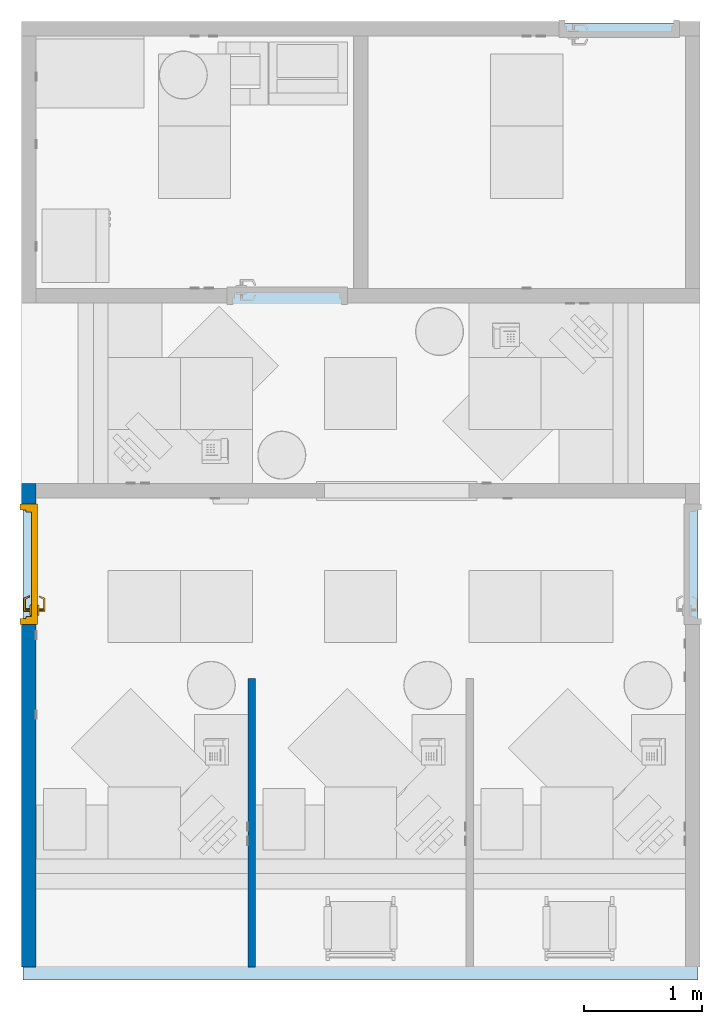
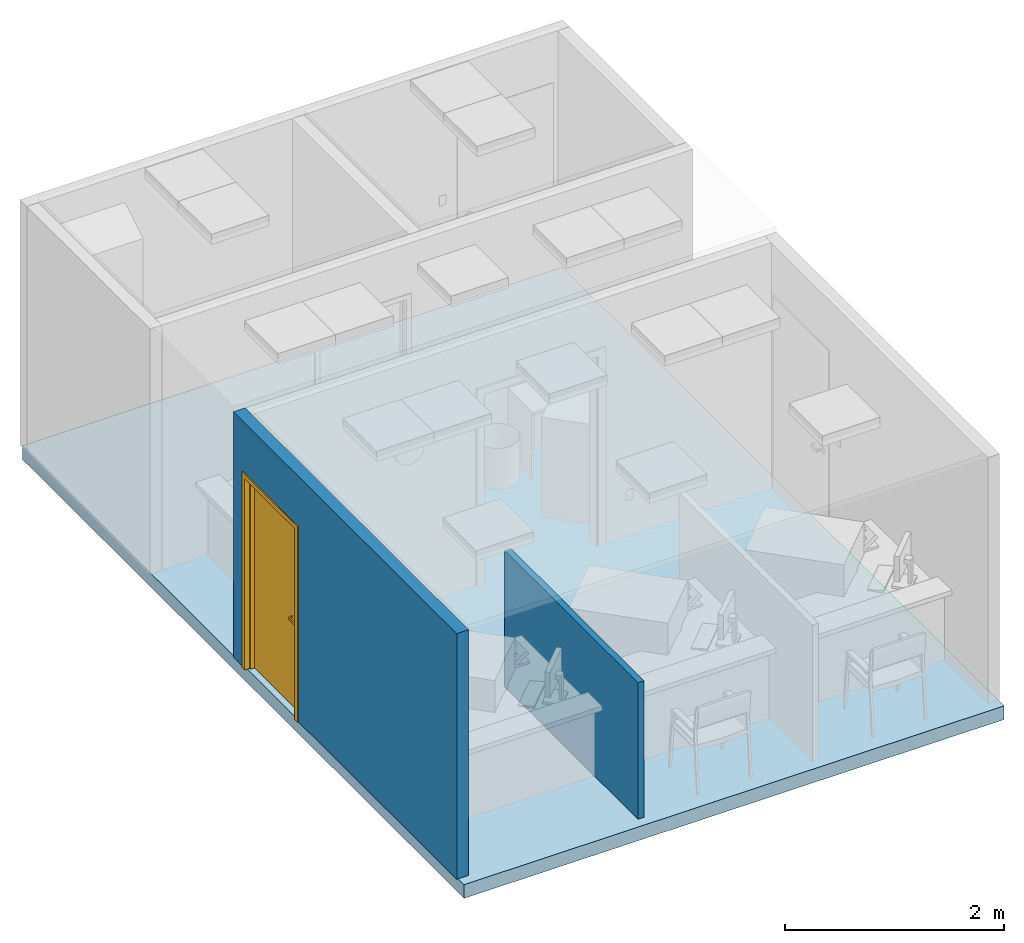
# One storey, part 1 of 20: 2 walls, 1 door, 1 slab, 1 opening.
"""IFC2X3 building model written with IfcOpenShell, lengths in feet."""

from ifc_helpers import new_model, entity, si_unit, converted_unit, derived_unit, direction, frame, frame_2d, origin, origin_2d_with_axis, place, context, subcontext, project, spatial, rectangle, extrude, faceted_brep, source, transform, mapped, material, layer, layer_set, layer_usage, type_object, type_shapes, element, fill, save


model = new_model("IFC2X3")

# Units and contexts
model_context = context("Model", 3, precision=0.0001, world=origin(), true_north=direction((6.12303176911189e-17, 1.0)))
body_context = subcontext(model_context, "Body", "Model", "MODEL_VIEW")
ifc_project = project(units=[converted_unit("LENGTHUNIT", "FOOT", entity("IfcRatioMeasure", 0.3048), si_unit("LENGTHUNIT", "METRE"), dimensions=[1, 0, 0, 0, 0, 0, 0]), converted_unit("AREAUNIT", "SQUARE FOOT", entity("IfcRatioMeasure", 0.09290304), si_unit("AREAUNIT", "SQUARE_METRE"), dimensions=[2, 0, 0, 0, 0, 0, 0]), converted_unit("VOLUMEUNIT", "CUBIC FOOT", entity("IfcRatioMeasure", 0.028316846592), si_unit("VOLUMEUNIT", "CUBIC_METRE"), dimensions=[3, 0, 0, 0, 0, 0, 0]), converted_unit("PLANEANGLEUNIT", "DEGREE", entity("IfcRatioMeasure", 0.0174532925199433), si_unit("PLANEANGLEUNIT", "RADIAN"), dimensions=[0, 0, 0, 0, 0, 0, 0]), si_unit("MASSUNIT", "GRAM", prefix="KILO"), derived_unit("MASSDENSITYUNIT", [(si_unit("MASSUNIT", "GRAM", prefix="KILO"), 1), (si_unit("LENGTHUNIT", "METRE"), -3)]), si_unit("TIMEUNIT", "SECOND"), si_unit("FREQUENCYUNIT", "HERTZ"), si_unit("THERMODYNAMICTEMPERATUREUNIT", "DEGREE_CELSIUS"), derived_unit("THERMALTRANSMITTANCEUNIT", [(si_unit("MASSUNIT", "GRAM", prefix="KILO"), 1), (si_unit("THERMODYNAMICTEMPERATUREUNIT", "KELVIN"), -1), (si_unit("TIMEUNIT", "SECOND"), -3)]), derived_unit("VOLUMETRICFLOWRATEUNIT", [(si_unit("LENGTHUNIT", "METRE"), 3), (si_unit("TIMEUNIT", "SECOND"), -1)]), si_unit("ELECTRICCURRENTUNIT", "AMPERE"), si_unit("ELECTRICVOLTAGEUNIT", "VOLT"), si_unit("POWERUNIT", "WATT"), si_unit("FORCEUNIT", "NEWTON"), si_unit("ILLUMINANCEUNIT", "LUX"), si_unit("LUMINOUSFLUXUNIT", "LUMEN"), si_unit("LUMINOUSINTENSITYUNIT", "CANDELA"), derived_unit("USERDEFINED", [(si_unit("MASSUNIT", "GRAM", prefix="KILO"), -1), (si_unit("LENGTHUNIT", "METRE"), -2), (si_unit("TIMEUNIT", "SECOND"), 3), (si_unit("LUMINOUSFLUXUNIT", "LUMEN"), 1)]), derived_unit("LINEARVELOCITYUNIT", [(si_unit("LENGTHUNIT", "METRE"), 1), (si_unit("TIMEUNIT", "SECOND"), -1)]), si_unit("PRESSUREUNIT", "PASCAL"), derived_unit("USERDEFINED", [(si_unit("LENGTHUNIT", "METRE"), -2), (si_unit("MASSUNIT", "GRAM", prefix="KILO"), 1), (si_unit("TIMEUNIT", "SECOND"), -2)])], contexts=[model_context])

# Site, building, storey
site_placement = place(None, origin())
site = spatial("IfcSite", under=ifc_project, at=site_placement, Name="Default", CompositionType="ELEMENT")
building_placement = place(site_placement, origin())
building = spatial("IfcBuilding", under=site, at=building_placement, Name="OUTPATIENT / PACT CLINIC (Ch. 265)", CompositionType="ELEMENT")
storey_placement = place(building_placement, origin())
storey = spatial("IfcBuildingStorey", under=building, at=storey_placement, Name="DATUM", CompositionType="ELEMENT", Elevation=0.0)

# Slab
ifc_material = material(Name="<Unnamed>")
ifc_layer_1 = layer(ifc_material, 0.5)
ifc_layer_set_1 = layer_set([ifc_layer_1], Name="Floor:Generic - 6\"")
ifc_layer_usage_1 = layer_usage(ifc_layer_set_1, "AXIS3", "POSITIVE", 0.0)
slab_placement = place(storey_placement, origin())
element("IfcSlab", 1, at=slab_placement, inside=storey, material=ifc_layer_usage_1, Name="Floor:Generic - 6\"", ObjectType="Floor:Generic - 6\"", PredefinedType="FLOOR", context=body_context, shape_type="SweptSolid", body=[
    extrude(rectangle(XDim=26.5208333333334, YDim=18.7083333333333, at=origin_2d_with_axis()), frame((65.2641134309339, -855.018589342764, 0.0), z_axis=(0.0, 0.0, -1.0), x_axis=(0.0, 1.0, 0.0)), (0.0, 0.0, 1.0), 0.5),
])

# Wall, opening, door
ifc_layer_2 = layer(ifc_material, 0.40625)
ifc_layer_set_2 = layer_set([ifc_layer_2], Name="Basic Wall:Interior - 4 7/8\"")
ifc_layer_usage_2 = layer_usage(ifc_layer_set_2, "AXIS2", "NEGATIVE", 0.203125)
wall_type_1 = type_object("IfcWallType", Name="Basic Wall:Interior - 4 7/8\"", PredefinedType="STANDARD", material=ifc_layer_set_2)
wall_1_placement = place(storey_placement, frame((56.0609884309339, -867.924839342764, 0.0), z_axis=(0.0, 0.0, 1.0), x_axis=(0.0, 1.0, 0.0)))
wall_1 = element("IfcWallStandardCase", 2, at=wall_1_placement, inside=storey, type_object=wall_type_1, material=ifc_layer_usage_2, Name="Basic Wall:Interior - 4 7/8\"", ObjectType="Basic Wall:Interior - 4 7/8\"", context=body_context, shape_type="SweptSolid", body=[
    extrude(rectangle(XDim=13.40625, YDim=0.40625, at=frame_2d((6.703125, -2.05391259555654e-15), x_axis=(-1.0, 0.0))), origin(), (0.0, 0.0, 1.0), 9.0),
])
opening_placement = place(wall_1_placement, frame((12.8333333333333, 0.203124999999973, 0.0)))
opening = element("IfcOpeningElement", 3, at=opening_placement, cuts=wall_1, Name="Single - Flush:36\" x 84\":1", ObjectType="Opening", context=body_context, shape_type="SweptSolid", body=[
    extrude(rectangle(XDim=3.33333333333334, YDim=7.16666666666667, at=frame_2d((3.58333333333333, 1.66666666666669), x_axis=(0.0, -1.0))), frame((0.0, 0.0, 0.0), z_axis=(0.0, -1.0, 0.0), x_axis=(0.0, 0.0, 1.0)), (0.0, 0.0, 1.0), 0.40625),
])
door_style = type_object("IfcDoorStyle", Name="36\" x 84\"", ConstructionType="NOTDEFINED", OperationType="NOTDEFINED", ParameterTakesPrecedence=False, Sizeable=False)
shared_shape = source(origin(), body_context, "Body", "Brep", [
    faceted_brep([(2.62432039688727, 0.123080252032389, 3.36458333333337), (2.63071126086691, 0.109375, 3.36458333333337), (2.63071126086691, 0.109375, 3.30208333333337), (2.62432039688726, 0.12308025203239, 3.30208333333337), (2.57149311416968, 0.23636872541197, 3.31250000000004), (2.57149311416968, 0.23636872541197, 3.3541666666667), (2.53373028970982, 0.218759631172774, 3.31250000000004), (2.5865575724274, 0.105471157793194, 3.30208333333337), (2.6041666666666, 0.0677083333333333, 3.30208333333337), (2.6041666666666, 0.067708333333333, 3.36458333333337), (2.58655757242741, 0.105471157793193, 3.36458333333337), (2.53373028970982, 0.218759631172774, 3.3541666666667), (2.6041666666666, 0.109375, 3.30208333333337), (2.6041666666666, 0.109375, 3.36458333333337), (2.93619600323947, 0.0677083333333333, 3.29168707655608), (2.94639661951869, 0.0677083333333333, 3.29262754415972), (2.95605949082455, 0.0677083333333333, 3.29602842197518), (2.9646005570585, 0.0677083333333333, 3.3016841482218), (2.97150356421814, 0.0677083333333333, 3.30925286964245), (2.97635126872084, 0.0677083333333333, 3.31827710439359), (2.97885065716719, 0.0677083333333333, 3.32821139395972), (2.97885065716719, 0.0677083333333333, 3.33845527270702), (2.97635126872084, 0.0677083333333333, 3.34838956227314), (2.97150356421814, 0.0677083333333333, 3.35741379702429), (2.9646005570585, 0.0677083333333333, 3.36498251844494), (2.95605949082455, 0.0677083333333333, 3.37063824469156), (2.94639661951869, 0.0677083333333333, 3.37403912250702), (2.93619600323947, 0.0677083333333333, 3.37497959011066), (2.92566985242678, 0.109375, 3.29338137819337), (2.93619600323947, 0.109375, 3.29168707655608), (2.93619600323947, 0.109375, 3.37497959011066), (2.92566985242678, 0.109375, 3.37328528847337), (2.91591827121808, 0.109375, 3.36897516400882), (2.90757973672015, 0.109375, 3.36233141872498), (2.90120020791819, 0.109375, 3.35378904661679), (2.8971973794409, 0.109375, 3.34390735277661), (2.89583333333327, 0.109375, 3.33333333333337), (2.8971973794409, 0.109375, 3.32275931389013), (2.90120020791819, 0.109375, 3.31287762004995), (2.90757973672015, 0.109375, 3.30433524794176), (2.91591827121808, 0.109375, 3.29769150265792), (2.94568224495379, 0.109375, 3.29247795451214), (2.95473886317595, 0.109375, 3.2954000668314), (2.96289592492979, 0.109375, 3.30030065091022), (2.96972778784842, 0.109375, 3.30692347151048), (2.97487870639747, 0.109375, 3.31492291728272), (2.97808054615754, 0.109375, 3.32388185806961), (2.9791666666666, 0.109375, 3.33333333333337), (2.97808054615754, 0.109375, 3.34278480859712), (2.97487870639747, 0.109375, 3.35174374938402), (2.96972778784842, 0.109375, 3.35974319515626), (2.96289592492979, 0.109375, 3.36636601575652), (2.95473886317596, 0.109375, 3.37126659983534), (2.94568224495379, 0.109375, 3.3741887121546), (2.97774690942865, 0.234375, 3.34411746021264), (2.9791666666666, 0.234375, 3.33333333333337), (2.97358439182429, 0.234375, 3.3541666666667), (2.96696278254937, 0.234375, 3.36279611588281), (2.95833333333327, 0.234375, 3.36941772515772), (2.94828412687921, 0.234375, 3.37358024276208), (2.93749999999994, 0.234375, 3.37500000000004), (2.92671587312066, 0.234375, 3.37358024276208), (2.9166666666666, 0.234375, 3.36941772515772), (2.9080372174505, 0.234375, 3.36279611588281), (2.90141560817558, 0.234375, 3.3541666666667), (2.89725309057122, 0.234375, 3.34411746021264), (2.89583333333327, 0.234375, 3.33333333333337), (2.89725309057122, 0.234375, 3.3225492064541), (2.90141560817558, 0.234375, 3.31250000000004), (2.9080372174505, 0.234375, 3.30387055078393), (2.9166666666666, 0.234375, 3.29724894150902), (2.92671587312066, 0.234375, 3.29308642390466), (2.93749999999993, 0.234375, 3.2916666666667), (2.94828412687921, 0.234375, 3.29308642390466), (2.95833333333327, 0.234375, 3.29724894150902), (2.96696278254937, 0.234375, 3.30387055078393), (2.97358439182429, 0.234375, 3.31250000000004), (2.97774690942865, 0.234375, 3.3225492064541), (2.86458333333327, 0.234375, 3.4596287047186), (2.8343802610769, 0.234375, 3.43645307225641), (2.89975555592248, 0.234375, 3.47419751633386), (2.93749999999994, 0.234375, 3.4791666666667), (2.97524444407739, 0.234375, 3.47419751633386), (3.0104166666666, 0.234375, 3.4596287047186), (3.04061973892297, 0.234375, 3.43645307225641), (3.06379537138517, 0.234375, 3.40625000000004), (3.07836418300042, 0.234375, 3.37107777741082), (3.08333333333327, 0.234375, 3.33333333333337), (3.07836418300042, 0.234375, 3.29558888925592), (3.06379537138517, 0.234375, 3.2604166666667), (3.04061973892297, 0.234375, 3.23021359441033), (3.0104166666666, 0.234375, 3.20703796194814), (2.97524444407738, 0.234375, 3.19246915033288), (2.93749999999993, 0.234375, 3.18750000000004), (2.89975555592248, 0.234375, 3.19246915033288), (2.86458333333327, 0.234375, 3.20703796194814), (2.8343802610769, 0.234375, 3.23021359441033), (2.8112046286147, 0.234375, 3.2604166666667), (2.79663581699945, 0.234375, 3.29558888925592), (2.7916666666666, 0.234375, 3.33333333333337), (2.79663581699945, 0.234375, 3.37107777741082), (2.8112046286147, 0.234375, 3.40625000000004), (2.8343802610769, 0.276041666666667, 3.23021359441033), (2.8112046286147, 0.276041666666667, 3.2604166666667), (2.79663581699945, 0.276041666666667, 3.29558888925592), (2.7916666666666, 0.276041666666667, 3.33333333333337), (2.79663581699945, 0.276041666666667, 3.37107777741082), (2.8112046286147, 0.276041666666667, 3.40625000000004), (2.8343802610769, 0.276041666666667, 3.43645307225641), (2.86458333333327, 0.276041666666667, 3.4596287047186), (2.89975555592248, 0.276041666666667, 3.47419751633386), (2.93749999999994, 0.276041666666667, 3.4791666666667), (2.97524444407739, 0.276041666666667, 3.47419751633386), (3.0104166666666, 0.276041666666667, 3.4596287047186), (3.04061973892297, 0.276041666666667, 3.43645307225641), (3.06379537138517, 0.276041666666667, 3.40625000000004), (3.07836418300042, 0.276041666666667, 3.37107777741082), (3.08333333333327, 0.276041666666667, 3.33333333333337), (3.07836418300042, 0.276041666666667, 3.29558888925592), (3.06379537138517, 0.276041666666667, 3.2604166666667), (3.04061973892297, 0.276041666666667, 3.23021359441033), (3.0104166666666, 0.276041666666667, 3.20703796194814), (2.97524444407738, 0.276041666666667, 3.19246915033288), (2.93749999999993, 0.276041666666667, 3.18750000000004), (2.89975555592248, 0.276041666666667, 3.19246915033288), (2.86458333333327, 0.276041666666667, 3.20703796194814)], [[[0, 1, 2, 3, 4, 5]], [[6, 7, 8, 9, 10, 11]], [[3, 2, 12, 8, 7]], [[4, 3, 7, 6]], [[5, 4, 6, 11]], [[0, 5, 11, 10]], [[1, 0, 10, 9, 13]], [[9, 8, 14, 15, 16, 17, 18, 19, 20, 21, 22, 23, 24, 25, 26, 27]], [[28, 29, 12, 2, 1, 13, 30, 31, 32, 33, 34, 35, 36, 37, 38, 39, 40]], [[14, 8, 12, 29]], [[41, 14, 29]], [[42, 15, 41]], [[17, 43, 44]], [[44, 45, 18]], [[42, 43, 16]], [[46, 19, 45]], [[42, 16, 15]], [[15, 14, 41]], [[19, 18, 45]], [[17, 44, 18]], [[17, 16, 43]], [[20, 19, 46]], [[46, 47, 20]], [[48, 21, 47]], [[49, 22, 48]], [[24, 50, 51]], [[51, 52, 25]], [[49, 50, 23]], [[53, 26, 52]], [[24, 23, 50]], [[23, 22, 49]], [[22, 21, 48]], [[27, 26, 53]], [[25, 52, 26]], [[25, 24, 51]], [[27, 53, 30]], [[47, 21, 20]], [[9, 27, 30, 13]], [[54, 48, 55]], [[56, 49, 54]], [[51, 57, 58]], [[56, 57, 50]], [[52, 58, 59]], [[54, 49, 48]], [[48, 47, 55]], [[52, 51, 58]], [[50, 57, 51]], [[50, 49, 56]], [[53, 52, 59]], [[59, 60, 53]], [[61, 30, 60]], [[62, 31, 61]], [[33, 63, 64]], [[64, 65, 34]], [[62, 63, 32]], [[66, 35, 65]], [[62, 32, 31]], [[31, 30, 61]], [[35, 34, 65]], [[33, 64, 34]], [[33, 32, 63]], [[36, 35, 66]], [[60, 30, 53]], [[67, 37, 66]], [[68, 38, 67]], [[40, 69, 70]], [[68, 69, 39]], [[28, 70, 71]], [[67, 38, 37]], [[37, 36, 66]], [[28, 40, 70]], [[39, 69, 40]], [[39, 38, 68]], [[29, 28, 71]], [[71, 72, 29]], [[73, 41, 72]], [[74, 42, 73]], [[44, 75, 76]], [[76, 77, 45]], [[74, 75, 43]], [[55, 46, 77]], [[74, 43, 42]], [[42, 41, 73]], [[46, 45, 77]], [[44, 76, 45]], [[44, 43, 75]], [[47, 46, 55]], [[72, 41, 29]], [[62, 61, 78]], [[79, 62, 78]], [[62, 79, 63]], [[61, 80, 78]], [[80, 61, 60]], [[80, 60, 81]], [[59, 81, 60]], [[81, 59, 82]], [[59, 58, 82]], [[83, 82, 58]], [[57, 83, 58]], [[83, 57, 84]], [[56, 84, 57]], [[85, 84, 56]], [[54, 85, 56]], [[86, 85, 54]], [[86, 54, 55]], [[86, 55, 87]], [[87, 55, 77]], [[87, 77, 88]], [[88, 77, 76]], [[88, 76, 89]], [[90, 89, 76]], [[90, 76, 75]], [[75, 91, 90]], [[75, 74, 91]], [[92, 91, 74]], [[73, 92, 74]], [[73, 93, 92]], [[93, 73, 72]], [[72, 94, 93]], [[71, 94, 72]], [[94, 71, 95]], [[70, 95, 71]], [[96, 95, 70]], [[96, 70, 69]], [[96, 69, 97]], [[97, 69, 68]], [[97, 68, 98]], [[67, 98, 68]], [[99, 98, 67]], [[67, 66, 99]], [[66, 100, 99]], [[100, 66, 65]], [[100, 65, 101]], [[65, 64, 101]], [[63, 101, 64]], [[79, 101, 63]], [[102, 103, 104, 105, 106, 107, 108, 109, 110, 111, 112, 113, 114, 115, 116, 117, 118, 119, 120, 121, 122, 123, 124, 125]], [[116, 86, 87, 117]], [[115, 85, 86, 116]], [[83, 84, 114, 113]], [[115, 114, 84, 85]], [[82, 83, 113, 112]], [[81, 82, 112, 111]], [[110, 80, 81, 111]], [[109, 78, 80, 110]], [[101, 79, 108, 107]], [[109, 108, 79, 78]], [[100, 101, 107, 106]], [[99, 100, 106, 105]], [[104, 98, 99, 105]], [[103, 97, 98, 104]], [[95, 96, 102, 125]], [[103, 102, 96, 97]], [[94, 95, 125, 124]], [[93, 94, 124, 123]], [[122, 92, 93, 123]], [[121, 91, 92, 122]], [[89, 90, 120, 119]], [[121, 120, 90, 91]], [[88, 89, 119, 118]], [[87, 88, 118, 117]]]),
    faceted_brep([(2.62432039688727, 0.595669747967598, 3.30208333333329), (2.63071126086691, 0.609374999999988, 3.30208333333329), (2.63071126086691, 0.609374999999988, 3.36458333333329), (2.62432039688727, 0.595669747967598, 3.36458333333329), (2.57149311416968, 0.482381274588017, 3.35416666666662), (2.57149311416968, 0.482381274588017, 3.31249999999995), (2.53373028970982, 0.499990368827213, 3.35416666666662), (2.58655757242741, 0.613278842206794, 3.36458333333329), (2.6041666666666, 0.651041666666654, 3.36458333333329), (2.6041666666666, 0.651041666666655, 3.30208333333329), (2.58655757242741, 0.613278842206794, 3.30208333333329), (2.53373028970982, 0.499990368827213, 3.31249999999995), (2.6041666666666, 0.609374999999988, 3.36458333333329), (2.6041666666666, 0.609374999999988, 3.30208333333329), (2.93619600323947, 0.651041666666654, 3.37497959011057), (2.94639661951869, 0.651041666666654, 3.37403912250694), (2.95605949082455, 0.651041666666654, 3.37063824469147), (2.9646005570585, 0.651041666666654, 3.36498251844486), (2.97150356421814, 0.651041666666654, 3.35741379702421), (2.97635126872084, 0.651041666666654, 3.34838956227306), (2.97885065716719, 0.651041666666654, 3.33845527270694), (2.97885065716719, 0.651041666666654, 3.32821139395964), (2.97635126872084, 0.651041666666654, 3.31827710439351), (2.97150356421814, 0.651041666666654, 3.30925286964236), (2.9646005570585, 0.651041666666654, 3.30168414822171), (2.95605949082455, 0.651041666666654, 3.2960284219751), (2.94639661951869, 0.651041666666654, 3.29262754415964), (2.93619600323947, 0.651041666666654, 3.291687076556), (2.92566985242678, 0.609374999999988, 3.37328528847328), (2.93619600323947, 0.609374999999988, 3.37497959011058), (2.93619600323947, 0.609374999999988, 3.291687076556), (2.92566985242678, 0.609374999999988, 3.29338137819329), (2.91591827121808, 0.609374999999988, 3.29769150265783), (2.90757973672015, 0.609374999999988, 3.30433524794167), (2.9012002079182, 0.609374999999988, 3.31287762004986), (2.89719737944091, 0.609374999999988, 3.32275931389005), (2.89583333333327, 0.609374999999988, 3.33333333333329), (2.89719737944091, 0.609374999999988, 3.34390735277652), (2.9012002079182, 0.609374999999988, 3.35378904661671), (2.90757973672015, 0.609374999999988, 3.3623314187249), (2.91591827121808, 0.609374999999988, 3.36897516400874), (2.94568224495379, 0.609374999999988, 3.37418871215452), (2.95473886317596, 0.609374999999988, 3.37126659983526), (2.96289592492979, 0.609374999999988, 3.36636601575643), (2.96972778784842, 0.609374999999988, 3.35974319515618), (2.97487870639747, 0.609374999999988, 3.35174374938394), (2.97808054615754, 0.609374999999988, 3.34278480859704), (2.9791666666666, 0.609374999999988, 3.33333333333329), (2.97808054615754, 0.609374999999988, 3.32388185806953), (2.97487870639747, 0.609374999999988, 3.31492291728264), (2.96972778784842, 0.609374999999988, 3.30692347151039), (2.96289592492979, 0.609374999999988, 3.30030065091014), (2.95473886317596, 0.609374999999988, 3.29540006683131), (2.94568224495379, 0.609374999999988, 3.29247795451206), (2.97774690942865, 0.484374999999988, 3.32254920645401), (2.9791666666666, 0.484374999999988, 3.33333333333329), (2.97358439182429, 0.484374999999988, 3.31249999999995), (2.96696278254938, 0.484374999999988, 3.30387055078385), (2.95833333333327, 0.484374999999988, 3.29724894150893), (2.94828412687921, 0.484374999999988, 3.29308642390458), (2.93749999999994, 0.484374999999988, 3.29166666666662), (2.92671587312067, 0.484374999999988, 3.29308642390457), (2.9166666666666, 0.484374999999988, 3.29724894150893), (2.9080372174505, 0.484374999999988, 3.30387055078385), (2.90141560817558, 0.484374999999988, 3.31249999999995), (2.89725309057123, 0.484374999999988, 3.32254920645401), (2.89583333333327, 0.484374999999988, 3.33333333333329), (2.89725309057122, 0.484374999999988, 3.34411746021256), (2.90141560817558, 0.484374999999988, 3.35416666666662), (2.9080372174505, 0.484374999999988, 3.36279611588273), (2.9166666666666, 0.484374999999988, 3.36941772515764), (2.92671587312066, 0.484374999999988, 3.373580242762), (2.93749999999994, 0.484374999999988, 3.37499999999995), (2.94828412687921, 0.484374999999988, 3.373580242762), (2.95833333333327, 0.484374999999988, 3.36941772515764), (2.96696278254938, 0.484374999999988, 3.36279611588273), (2.97358439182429, 0.484374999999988, 3.35416666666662), (2.97774690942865, 0.484374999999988, 3.34411746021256), (2.86458333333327, 0.484374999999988, 3.20703796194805), (2.8343802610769, 0.484374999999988, 3.23021359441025), (2.89975555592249, 0.484374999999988, 3.1924691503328), (2.93749999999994, 0.484374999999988, 3.18749999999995), (2.97524444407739, 0.484374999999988, 3.1924691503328), (3.0104166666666, 0.484374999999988, 3.20703796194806), (3.04061973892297, 0.484374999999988, 3.23021359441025), (3.06379537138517, 0.484374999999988, 3.26041666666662), (3.07836418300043, 0.484374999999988, 3.29558888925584), (3.08333333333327, 0.484374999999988, 3.33333333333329), (3.07836418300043, 0.484374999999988, 3.37107777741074), (3.06379537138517, 0.484374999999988, 3.40624999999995), (3.04061973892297, 0.484374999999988, 3.43645307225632), (3.0104166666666, 0.484374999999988, 3.45962870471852), (2.97524444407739, 0.484374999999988, 3.47419751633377), (2.93749999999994, 0.484374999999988, 3.47916666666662), (2.89975555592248, 0.484374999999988, 3.47419751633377), (2.86458333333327, 0.484374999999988, 3.45962870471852), (2.8343802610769, 0.484374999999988, 3.43645307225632), (2.81120462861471, 0.484374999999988, 3.40624999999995), (2.79663581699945, 0.484374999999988, 3.37107777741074), (2.7916666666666, 0.484374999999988, 3.33333333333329), (2.79663581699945, 0.484374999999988, 3.29558888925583), (2.81120462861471, 0.484374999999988, 3.26041666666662), (2.8343802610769, 0.442708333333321, 3.43645307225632), (2.81120462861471, 0.442708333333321, 3.40624999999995), (2.79663581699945, 0.442708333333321, 3.37107777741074), (2.7916666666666, 0.442708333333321, 3.33333333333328), (2.79663581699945, 0.442708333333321, 3.29558888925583), (2.81120462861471, 0.442708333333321, 3.26041666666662), (2.8343802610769, 0.442708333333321, 3.23021359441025), (2.86458333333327, 0.442708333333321, 3.20703796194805), (2.89975555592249, 0.442708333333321, 3.1924691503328), (2.93749999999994, 0.442708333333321, 3.18749999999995), (2.97524444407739, 0.442708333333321, 3.1924691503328), (3.0104166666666, 0.442708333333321, 3.20703796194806), (3.04061973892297, 0.442708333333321, 3.23021359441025), (3.06379537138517, 0.442708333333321, 3.26041666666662), (3.07836418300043, 0.442708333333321, 3.29558888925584), (3.08333333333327, 0.442708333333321, 3.33333333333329), (3.07836418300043, 0.442708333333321, 3.37107777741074), (3.06379537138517, 0.442708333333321, 3.40624999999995), (3.04061973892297, 0.442708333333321, 3.43645307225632), (3.0104166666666, 0.442708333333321, 3.45962870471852), (2.97524444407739, 0.442708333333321, 3.47419751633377), (2.93749999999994, 0.442708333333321, 3.47916666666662), (2.89975555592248, 0.442708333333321, 3.47419751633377), (2.86458333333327, 0.442708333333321, 3.45962870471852)], [[[0, 1, 2, 3, 4, 5]], [[6, 7, 8, 9, 10, 11]], [[3, 2, 12, 8, 7]], [[4, 3, 7, 6]], [[5, 4, 6, 11]], [[0, 5, 11, 10]], [[1, 0, 10, 9, 13]], [[9, 8, 14, 15, 16, 17, 18, 19, 20, 21, 22, 23, 24, 25, 26, 27]], [[28, 29, 12, 2, 1, 13, 30, 31, 32, 33, 34, 35, 36, 37, 38, 39, 40]], [[14, 8, 12, 29]], [[41, 14, 29]], [[42, 15, 41]], [[17, 43, 44]], [[44, 45, 18]], [[42, 43, 16]], [[46, 19, 45]], [[42, 16, 15]], [[15, 14, 41]], [[19, 18, 45]], [[17, 44, 18]], [[17, 16, 43]], [[20, 19, 46]], [[46, 47, 20]], [[48, 21, 47]], [[49, 22, 48]], [[24, 50, 51]], [[51, 52, 25]], [[49, 50, 23]], [[53, 26, 52]], [[24, 23, 50]], [[23, 22, 49]], [[22, 21, 48]], [[27, 26, 53]], [[25, 52, 26]], [[25, 24, 51]], [[27, 53, 30]], [[47, 21, 20]], [[9, 27, 30, 13]], [[54, 48, 55]], [[56, 49, 54]], [[51, 57, 58]], [[56, 57, 50]], [[52, 58, 59]], [[54, 49, 48]], [[48, 47, 55]], [[52, 51, 58]], [[50, 57, 51]], [[50, 49, 56]], [[53, 52, 59]], [[59, 60, 53]], [[61, 30, 60]], [[62, 31, 61]], [[33, 63, 64]], [[64, 65, 34]], [[62, 63, 32]], [[66, 35, 65]], [[62, 32, 31]], [[31, 30, 61]], [[35, 34, 65]], [[33, 64, 34]], [[33, 32, 63]], [[36, 35, 66]], [[60, 30, 53]], [[67, 37, 66]], [[68, 38, 67]], [[40, 69, 70]], [[68, 69, 39]], [[28, 70, 71]], [[67, 38, 37]], [[37, 36, 66]], [[28, 40, 70]], [[39, 69, 40]], [[39, 38, 68]], [[29, 28, 71]], [[71, 72, 29]], [[73, 41, 72]], [[74, 42, 73]], [[44, 75, 76]], [[76, 77, 45]], [[74, 75, 43]], [[55, 46, 77]], [[74, 43, 42]], [[42, 41, 73]], [[46, 45, 77]], [[44, 76, 45]], [[44, 43, 75]], [[47, 46, 55]], [[72, 41, 29]], [[62, 61, 78]], [[79, 62, 78]], [[62, 79, 63]], [[61, 80, 78]], [[80, 61, 60]], [[80, 60, 81]], [[59, 81, 60]], [[81, 59, 82]], [[59, 58, 82]], [[83, 82, 58]], [[57, 83, 58]], [[83, 57, 84]], [[56, 84, 57]], [[85, 84, 56]], [[54, 85, 56]], [[86, 85, 54]], [[86, 54, 55]], [[86, 55, 87]], [[87, 55, 77]], [[87, 77, 88]], [[88, 77, 76]], [[88, 76, 89]], [[90, 89, 76]], [[90, 76, 75]], [[75, 91, 90]], [[75, 74, 91]], [[92, 91, 74]], [[73, 92, 74]], [[73, 93, 92]], [[93, 73, 72]], [[72, 94, 93]], [[71, 94, 72]], [[94, 71, 95]], [[70, 95, 71]], [[96, 95, 70]], [[96, 70, 69]], [[96, 69, 97]], [[97, 69, 68]], [[97, 68, 98]], [[67, 98, 68]], [[99, 98, 67]], [[67, 66, 99]], [[66, 100, 99]], [[100, 66, 65]], [[100, 65, 101]], [[65, 64, 101]], [[63, 101, 64]], [[79, 101, 63]], [[102, 103, 104, 105, 106, 107, 108, 109, 110, 111, 112, 113, 114, 115, 116, 117, 118, 119, 120, 121, 122, 123, 124, 125]], [[116, 86, 87, 117]], [[115, 85, 86, 116]], [[83, 84, 114, 113]], [[115, 114, 84, 85]], [[82, 83, 113, 112]], [[81, 82, 112, 111]], [[110, 80, 81, 111]], [[109, 78, 80, 110]], [[101, 79, 108, 107]], [[109, 108, 79, 78]], [[100, 101, 107, 106]], [[99, 100, 106, 105]], [[104, 98, 99, 105]], [[103, 97, 98, 104]], [[95, 96, 102, 125]], [[103, 102, 96, 97]], [[94, 95, 125, 124]], [[93, 94, 124, 123]], [[122, 92, 93, 123]], [[121, 91, 92, 122]], [[89, 90, 120, 119]], [[121, 120, 90, 91]], [[88, 89, 119, 118]], [[87, 88, 118, 117]]]),
    faceted_brep([(0.166666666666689, 0.442708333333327, 7.0), (3.16666666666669, 0.442708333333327, 7.0), (3.16666666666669, 0.442708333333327, 0.0), (0.166666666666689, 0.442708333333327, 0.0), (0.166666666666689, 0.276041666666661, 7.0), (0.166666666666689, 0.276041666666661, 0.0), (3.16666666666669, 0.276041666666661, 0.0), (3.16666666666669, 0.276041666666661, 7.0)], [[[0, 1, 2, 3]], [[4, 5, 6, 7]], [[1, 0, 4, 7]], [[2, 1, 7, 6]], [[3, 2, 6, 5]], [[0, 3, 5, 4]]]),
    faceted_brep([(0.166666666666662, 0.442708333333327, 0.0), (0.166666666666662, 0.276041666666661, 0.0), (0.218749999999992, 0.276041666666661, 0.0), (0.218749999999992, 0.130208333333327, 0.0), (0.166666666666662, 0.130208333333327, 0.0), (0.166666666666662, -0.0364583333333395, 0.0), (0.0, -0.0364583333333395, 0.0), (0.0, 0.442708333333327, 0.0), (0.166666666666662, 0.442708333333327, 7.0), (0.166666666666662, 0.276041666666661, 7.0), (3.16666666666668, 0.276041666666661, 7.0), (3.16666666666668, 0.276041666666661, 0.0), (3.11458333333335, 0.27604166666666, 0.0), (3.11458333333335, 0.276041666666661, 6.94791666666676), (0.218749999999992, 0.276041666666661, 6.94791666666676), (0.218749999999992, 0.130208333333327, 6.94791666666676), (3.11458333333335, 0.130208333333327, 6.94791666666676), (3.11458333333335, 0.130208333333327, 0.0), (3.16666666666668, 0.130208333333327, 0.0), (3.16666666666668, 0.130208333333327, 7.0), (0.166666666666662, 0.130208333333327, 7.0), (0.166666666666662, -0.0364583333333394, 7.0), (3.16666666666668, -0.0364583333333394, 7.0), (3.16666666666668, -0.0364583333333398, 0.0), (3.33333333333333, -0.0364583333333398, 0.0), (3.33333333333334, -0.0364583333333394, 7.16666666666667), (0.0, -0.0364583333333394, 7.16666666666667), (0.0, 0.442708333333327, 7.16666666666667), (3.33333333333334, 0.442708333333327, 7.16666666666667), (3.33333333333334, 0.442708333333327, 0.0), (3.16666666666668, 0.442708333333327, 0.0), (3.16666666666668, 0.442708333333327, 7.0)], [[[0, 1, 2, 3, 4, 5, 6, 7]], [[1, 0, 8, 9]], [[2, 1, 9, 10, 11, 12, 13, 14]], [[3, 2, 14, 15]], [[4, 3, 15, 16, 17, 18, 19, 20]], [[5, 4, 20, 21]], [[6, 5, 21, 22, 23, 24, 25, 26]], [[7, 6, 26, 27]], [[0, 7, 27, 28, 29, 30, 31, 8]], [[30, 11, 10, 31]], [[30, 29, 24, 23, 18, 17, 12, 11]], [[12, 17, 16, 13]], [[19, 18, 23, 22]], [[29, 28, 25, 24]], [[10, 9, 8, 31]], [[15, 14, 13, 16]], [[21, 20, 19, 22]], [[25, 28, 27, 26]]]),
])
type_shapes(door_style, [shared_shape])
door_placement = place(opening_placement, frame((0.0, 0.0, 0.0), z_axis=(0.0, 0.0, 1.0), x_axis=(-1.0, 0.0, 0.0)))
door = element("IfcDoor", 4, at=door_placement, inside=storey, type_object=door_style, Name="Single - Flush:36\" x 84\"", ObjectType="36\" x 84\"", OverallHeight=7.16666666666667, OverallWidth=3.33333333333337, context=body_context, shape_type="MappedRepresentation", body=[
    mapped(shared_shape, transform((0.0, 0.0, 0.0), scale=1.0)),
])
fill(opening, door)

# Wall
ifc_layer_3 = layer(ifc_material, 0.208333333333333)
ifc_layer_set_3 = layer_set([ifc_layer_3], Name="Basic Wall:Systems Wall")
ifc_layer_usage_3 = layer_usage(ifc_layer_set_3, "AXIS2", "NEGATIVE", 0.104166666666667)
wall_type_2 = type_object("IfcWallType", Name="Basic Wall:Systems Wall", PredefinedType="STANDARD", material=ifc_layer_set_3)
wall_2_placement = place(storey_placement, frame((62.2432800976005, -867.924839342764, 0.0), z_axis=(0.0, 0.0, 1.0), x_axis=(0.0, 1.0, 0.0)))
element("IfcWallStandardCase", 5, at=wall_2_placement, inside=storey, type_object=wall_type_2, material=ifc_layer_usage_3, Name="Basic Wall:Systems Wall", ObjectType="Basic Wall:Systems Wall", context=body_context, shape_type="SweptSolid", body=[
    extrude(rectangle(XDim=8.0, YDim=0.208333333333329, at=frame_2d((4.0, 0.0), x_axis=(-1.0, 0.0))), origin(), (0.0, 0.0, 1.0), 5.0),
])

save(model, "model.ifc")
